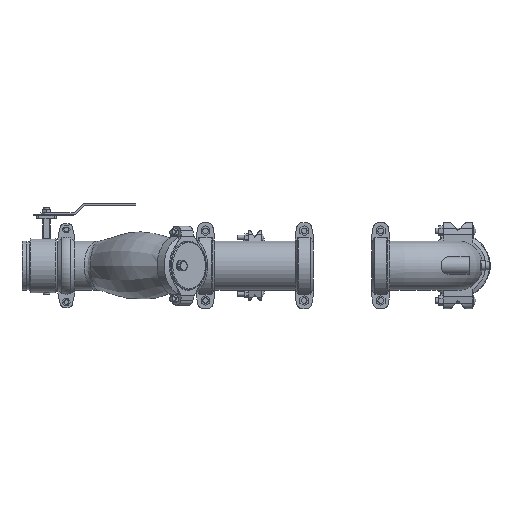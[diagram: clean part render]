
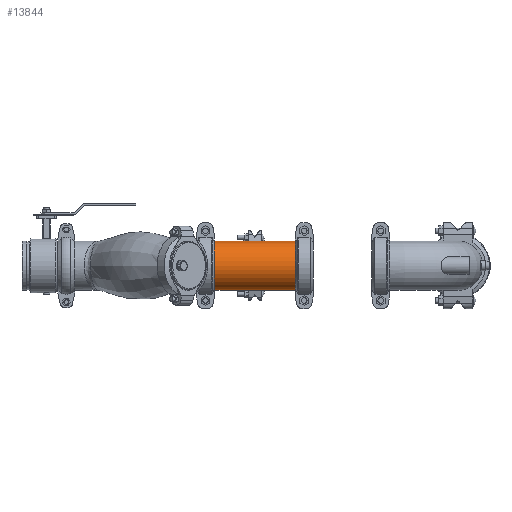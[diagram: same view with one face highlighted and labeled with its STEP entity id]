
A CAD part, left-side view. The second image highlights one B-rep face of the part: STEP entity #13844.
In plain terms, the highlighted cylindrical face has radius 84.138 mm (diameter 168.275 mm), a full revolution.
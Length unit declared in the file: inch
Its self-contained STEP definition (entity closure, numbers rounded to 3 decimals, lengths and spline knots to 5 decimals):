
#316=B_SPLINE_CURVE_WITH_KNOTS('',3,(#21085,#21086,#21087,#21088,#21089,
#21090,#21091,#21092,#21093,#21094,#21095,#21096,#21097,#21098,#21099,#21100,
#21101,#21102,#21103,#21104,#21105,#21106,#21107,#21108,#21109,#21110,#21111,
#21112,#21113,#21114,#21115,#21116,#21117,#21118,#21119,#21120,#21121,#21122,
#21123,#21124,#21125,#21126,#21127,#21128,#21129,#21130,#21131,#21132,#21133,
#21134),.UNSPECIFIED.,.F.,.F.,(4,2,2,2,2,2,2,2,2,2,2,2,2,2,2,2,2,2,2,2,
2,2,2,2,4),(0.,1.13036,2.26072,3.39108,4.52144,
5.63808,6.75471,7.87135,8.98799,10.10462,
11.22126,12.3379,13.45453,14.58489,15.71525,
16.84561,17.97597,19.10633,20.2367,21.36706,
22.49742,23.61405,24.73069,25.84733,26.96396),
 .UNSPECIFIED.);
#317=B_SPLINE_CURVE_WITH_KNOTS('',3,(#21135,#21136,#21137,#21138,#21139,
#21140,#21141,#21142,#21143,#21144,#21145,#21146,#21147,#21148,#21149,#21150,
#21151,#21152),.UNSPECIFIED.,.F.,.F.,(4,2,2,2,2,2,2,2,4),(26.96396,
28.0806,29.19723,30.31387,31.43051,32.56087,
33.69123,34.82159,35.95195),.UNSPECIFIED.);
#506=LINE('',#21182,#1478);
#1478=VECTOR('',#16829,3.3125);
#2448=CYLINDRICAL_SURFACE('',#15056,3.3125);
#2713=FACE_BOUND('',#3669,.T.);
#2896=FACE_OUTER_BOUND('',#3668,.T.);
#3668=EDGE_LOOP('',(#8832,#8833,#8834,#8835,#8836,#8837));
#3669=EDGE_LOOP('',(#8838,#8839));
#4606=CIRCLE('',#15057,3.3125);
#4607=CIRCLE('',#15058,3.3125);
#4608=CIRCLE('',#15059,3.3125);
#4609=CIRCLE('',#15060,3.3125);
#5376=VERTEX_POINT('',#21082);
#5377=VERTEX_POINT('',#21084);
#5386=VERTEX_POINT('',#21177);
#5387=VERTEX_POINT('',#21178);
#5388=VERTEX_POINT('',#21181);
#5389=VERTEX_POINT('',#21183);
#6735=EDGE_CURVE('',#5377,#5376,#316,.T.);
#6736=EDGE_CURVE('',#5376,#5377,#317,.T.);
#6747=EDGE_CURVE('',#5386,#5387,#4606,.T.);
#6748=EDGE_CURVE('',#5387,#5386,#4607,.T.);
#6749=EDGE_CURVE('',#5387,#5388,#506,.T.);
#6750=EDGE_CURVE('',#5388,#5389,#4608,.T.);
#6751=EDGE_CURVE('',#5389,#5388,#4609,.T.);
#8832=ORIENTED_EDGE('',*,*,#6747,.F.);
#8833=ORIENTED_EDGE('',*,*,#6748,.F.);
#8834=ORIENTED_EDGE('',*,*,#6749,.T.);
#8835=ORIENTED_EDGE('',*,*,#6750,.T.);
#8836=ORIENTED_EDGE('',*,*,#6751,.T.);
#8837=ORIENTED_EDGE('',*,*,#6749,.F.);
#8838=ORIENTED_EDGE('',*,*,#6735,.T.);
#8839=ORIENTED_EDGE('',*,*,#6736,.T.);
#13844=ADVANCED_FACE('',(#2896,#2713),#2448,.T.);
#15056=AXIS2_PLACEMENT_3D('',#21176,#16823,#16824);
#15057=AXIS2_PLACEMENT_3D('',#21179,#16825,#16826);
#15058=AXIS2_PLACEMENT_3D('',#21180,#16827,#16828);
#15059=AXIS2_PLACEMENT_3D('',#21184,#16830,#16831);
#15060=AXIS2_PLACEMENT_3D('',#21185,#16832,#16833);
#16823=DIRECTION('center_axis',(1.,0.,0.));
#16824=DIRECTION('ref_axis',(0.,-1.,0.));
#16825=DIRECTION('center_axis',(1.,0.,0.));
#16826=DIRECTION('ref_axis',(0.,-1.,0.));
#16827=DIRECTION('center_axis',(1.,0.,0.));
#16828=DIRECTION('ref_axis',(0.,-1.,0.));
#16829=DIRECTION('',(-1.,0.,0.));
#16830=DIRECTION('center_axis',(1.,0.,0.));
#16831=DIRECTION('ref_axis',(0.,-1.,0.));
#16832=DIRECTION('center_axis',(1.,0.,0.));
#16833=DIRECTION('ref_axis',(0.,-1.,0.));
#21082=CARTESIAN_POINT('',(2.25,-3.3125,0.));
#21084=CARTESIAN_POINT('',(0.,-2.43108,-2.25));
#21085=CARTESIAN_POINT('Ctrl Pts',(0.,-2.43108,
-2.25));
#21086=CARTESIAN_POINT('Ctrl Pts',(-0.14834,-2.43108,-2.25));
#21087=CARTESIAN_POINT('Ctrl Pts',(-0.29879,-2.44508,
-2.23514));
#21088=CARTESIAN_POINT('Ctrl Pts',(-0.59355,-2.49829,-2.1755));
#21089=CARTESIAN_POINT('Ctrl Pts',(-0.7379,-2.53732,
-2.13077));
#21090=CARTESIAN_POINT('Ctrl Pts',(-1.01221,-2.63022,
-2.01497));
#21091=CARTESIAN_POINT('Ctrl Pts',(-1.14247,-2.68403,
-1.9438));
#21092=CARTESIAN_POINT('Ctrl Pts',(-1.38295,-2.79488,
-1.78074));
#21093=CARTESIAN_POINT('Ctrl Pts',(-1.49317,-2.85185,-1.68881));
#21094=CARTESIAN_POINT('Ctrl Pts',(-1.68762,-2.95832,
-1.49436));
#21095=CARTESIAN_POINT('Ctrl Pts',(-1.77933,-3.01197,
-1.38478));
#21096=CARTESIAN_POINT('Ctrl Pts',(-1.94278,-3.11132,
-1.14423));
#21097=CARTESIAN_POINT('Ctrl Pts',(-2.01452,-3.15697,
-1.01324));
#21098=CARTESIAN_POINT('Ctrl Pts',(-2.13107,-3.23259,-0.73721));
#21099=CARTESIAN_POINT('Ctrl Pts',(-2.17598,-3.2626,
-0.59187));
#21100=CARTESIAN_POINT('Ctrl Pts',(-2.23545,-3.30256,-0.29654));
#21101=CARTESIAN_POINT('Ctrl Pts',(-2.25,-3.3125,-0.14654));
#21102=CARTESIAN_POINT('Ctrl Pts',(-2.25,-3.3125,0.14654));
#21103=CARTESIAN_POINT('Ctrl Pts',(-2.23545,-3.30256,0.29654));
#21104=CARTESIAN_POINT('Ctrl Pts',(-2.17598,-3.2626,
0.59187));
#21105=CARTESIAN_POINT('Ctrl Pts',(-2.13107,-3.23259,0.73721));
#21106=CARTESIAN_POINT('Ctrl Pts',(-2.01452,-3.15697,
1.01324));
#21107=CARTESIAN_POINT('Ctrl Pts',(-1.94278,-3.11132,
1.14423));
#21108=CARTESIAN_POINT('Ctrl Pts',(-1.77933,-3.01197,
1.38478));
#21109=CARTESIAN_POINT('Ctrl Pts',(-1.68762,-2.95832,
1.49436));
#21110=CARTESIAN_POINT('Ctrl Pts',(-1.49317,-2.85185,1.68881));
#21111=CARTESIAN_POINT('Ctrl Pts',(-1.38295,-2.79488,
1.78074));
#21112=CARTESIAN_POINT('Ctrl Pts',(-1.14247,-2.68403,
1.9438));
#21113=CARTESIAN_POINT('Ctrl Pts',(-1.01221,-2.63022,
2.01497));
#21114=CARTESIAN_POINT('Ctrl Pts',(-0.7379,-2.53732,
2.13077));
#21115=CARTESIAN_POINT('Ctrl Pts',(-0.59355,-2.49829,2.1755));
#21116=CARTESIAN_POINT('Ctrl Pts',(-0.29879,-2.44508,
2.23514));
#21117=CARTESIAN_POINT('Ctrl Pts',(-0.14834,-2.43108,2.25));
#21118=CARTESIAN_POINT('Ctrl Pts',(0.14834,-2.43108,2.25));
#21119=CARTESIAN_POINT('Ctrl Pts',(0.29879,-2.44508,
2.23514));
#21120=CARTESIAN_POINT('Ctrl Pts',(0.59355,-2.49829,
2.1755));
#21121=CARTESIAN_POINT('Ctrl Pts',(0.7379,-2.53732,
2.13077));
#21122=CARTESIAN_POINT('Ctrl Pts',(1.01221,-2.63022,2.01497));
#21123=CARTESIAN_POINT('Ctrl Pts',(1.14247,-2.68403,1.9438));
#21124=CARTESIAN_POINT('Ctrl Pts',(1.38295,-2.79488,1.78074));
#21125=CARTESIAN_POINT('Ctrl Pts',(1.49317,-2.85185,1.68881));
#21126=CARTESIAN_POINT('Ctrl Pts',(1.68762,-2.95832,1.49436));
#21127=CARTESIAN_POINT('Ctrl Pts',(1.77933,-3.01197,1.38478));
#21128=CARTESIAN_POINT('Ctrl Pts',(1.94278,-3.11132,1.14423));
#21129=CARTESIAN_POINT('Ctrl Pts',(2.01452,-3.15697,1.01324));
#21130=CARTESIAN_POINT('Ctrl Pts',(2.13107,-3.23259,0.73721));
#21131=CARTESIAN_POINT('Ctrl Pts',(2.17598,-3.2626,0.59187));
#21132=CARTESIAN_POINT('Ctrl Pts',(2.23545,-3.30256,0.29654));
#21133=CARTESIAN_POINT('Ctrl Pts',(2.25,-3.3125,0.14654));
#21134=CARTESIAN_POINT('Ctrl Pts',(2.25,-3.3125,0.));
#21135=CARTESIAN_POINT('Ctrl Pts',(2.25,-3.3125,0.));
#21136=CARTESIAN_POINT('Ctrl Pts',(2.25,-3.3125,-0.14654));
#21137=CARTESIAN_POINT('Ctrl Pts',(2.23545,-3.30256,-0.29654));
#21138=CARTESIAN_POINT('Ctrl Pts',(2.17598,-3.2626,-0.59187));
#21139=CARTESIAN_POINT('Ctrl Pts',(2.13107,-3.23259,-0.73721));
#21140=CARTESIAN_POINT('Ctrl Pts',(2.01452,-3.15697,-1.01324));
#21141=CARTESIAN_POINT('Ctrl Pts',(1.94278,-3.11132,-1.14423));
#21142=CARTESIAN_POINT('Ctrl Pts',(1.77933,-3.01197,-1.38478));
#21143=CARTESIAN_POINT('Ctrl Pts',(1.68762,-2.95832,-1.49436));
#21144=CARTESIAN_POINT('Ctrl Pts',(1.49317,-2.85185,-1.68881));
#21145=CARTESIAN_POINT('Ctrl Pts',(1.38295,-2.79488,-1.78074));
#21146=CARTESIAN_POINT('Ctrl Pts',(1.14247,-2.68403,-1.9438));
#21147=CARTESIAN_POINT('Ctrl Pts',(1.01221,-2.63022,-2.01497));
#21148=CARTESIAN_POINT('Ctrl Pts',(0.7379,-2.53732,
-2.13077));
#21149=CARTESIAN_POINT('Ctrl Pts',(0.59355,-2.49829,
-2.1755));
#21150=CARTESIAN_POINT('Ctrl Pts',(0.29879,-2.44508,
-2.23514));
#21151=CARTESIAN_POINT('Ctrl Pts',(0.14834,-2.43108,-2.25));
#21152=CARTESIAN_POINT('Ctrl Pts',(0.,-2.43108,-2.25));
#21176=CARTESIAN_POINT('Origin',(0.625,0.,0.));
#21177=CARTESIAN_POINT('',(5.5,-3.3125,0.));
#21178=CARTESIAN_POINT('',(5.5,3.3125,0.));
#21179=CARTESIAN_POINT('Origin',(5.5,0.,0.));
#21180=CARTESIAN_POINT('Origin',(5.5,0.,0.));
#21181=CARTESIAN_POINT('',(-5.5,3.3125,0.));
#21182=CARTESIAN_POINT('',(0.625,3.3125,0.));
#21183=CARTESIAN_POINT('',(-5.5,-3.3125,0.));
#21184=CARTESIAN_POINT('Origin',(-5.5,0.,0.));
#21185=CARTESIAN_POINT('Origin',(-5.5,0.,0.));
